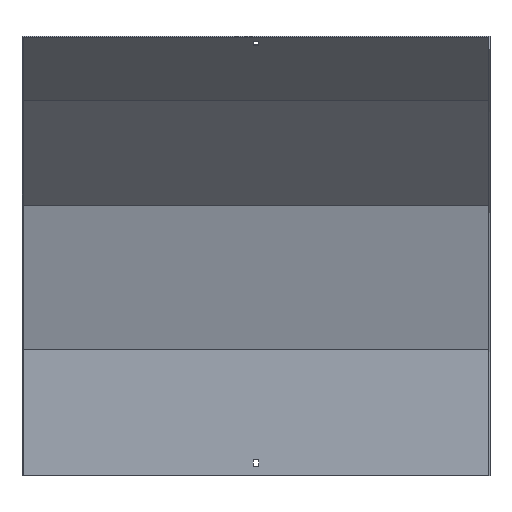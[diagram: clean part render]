
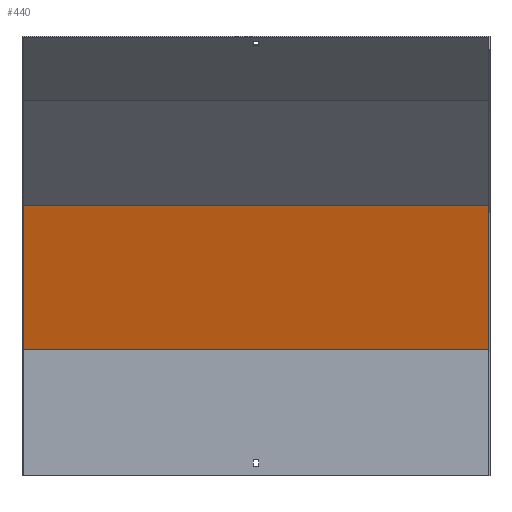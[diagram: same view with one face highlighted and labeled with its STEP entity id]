
A CAD part, front view. The second image highlights one B-rep face of the part: STEP entity #440.
In plain terms, the highlighted planar face has unit normal (0, -0.966, -0.259).
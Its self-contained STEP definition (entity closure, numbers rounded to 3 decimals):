
#18 = DIRECTION ( 'NONE',  ( -1., 0., 0. ) ) ;
#21 = VERTEX_POINT ( 'NONE', #571 ) ;
#41 = DIRECTION ( 'NONE',  ( 0., -0.259, 0.966 ) ) ;
#112 = EDGE_CURVE ( 'NONE', #553, #21, #251, .T. ) ;
#138 = VERTEX_POINT ( 'NONE', #554 ) ;
#208 = LINE ( 'NONE', #802, #476 ) ;
#251 = LINE ( 'NONE', #570, #275 ) ;
#275 = VECTOR ( 'NONE', #18, 1000. ) ;
#301 = CARTESIAN_POINT ( 'NONE',  ( 300., -31.295, 348.273 ) ) ;
#313 = EDGE_CURVE ( 'NONE', #568, #553, #208, .T. ) ;
#373 = CARTESIAN_POINT ( 'NONE',  ( 300., 18.5, 162.436 ) ) ;
#392 = ORIENTED_EDGE ( 'NONE', *, *, #577, .F. ) ;
#414 = LINE ( 'NONE', #722, #572 ) ;
#440 = ADVANCED_FACE ( 'NONE', ( #531 ), #613, .T. ) ;
#455 = ORIENTED_EDGE ( 'NONE', *, *, #313, .T. ) ;
#476 = VECTOR ( 'NONE', #41, 1000. ) ;
#483 = ORIENTED_EDGE ( 'NONE', *, *, #112, .T. ) ;
#500 = DIRECTION ( 'NONE',  ( -1., 0., 0. ) ) ;
#531 = FACE_OUTER_BOUND ( 'NONE', #864, .T. ) ;
#553 = VERTEX_POINT ( 'NONE', #301 ) ;
#554 = CARTESIAN_POINT ( 'NONE',  ( -300., 18.5, 162.436 ) ) ;
#568 = VERTEX_POINT ( 'NONE', #373 ) ;
#570 = CARTESIAN_POINT ( 'NONE',  ( 301.5, -31.295, 348.273 ) ) ;
#571 = CARTESIAN_POINT ( 'NONE',  ( -300., -31.295, 348.273 ) ) ;
#572 = VECTOR ( 'NONE', #500, 1000. ) ;
#577 = EDGE_CURVE ( 'NONE', #138, #21, #605, .T. ) ;
#603 = DIRECTION ( 'NONE',  ( 0., 0.259, -0.966 ) ) ;
#605 = LINE ( 'NONE', #679, #889 ) ;
#613 = PLANE ( 'NONE',  #689 ) ;
#679 = CARTESIAN_POINT ( 'NONE',  ( -300., 57.87, 15.506 ) ) ;
#689 = AXIS2_PLACEMENT_3D ( 'NONE', #905, #835, #603 ) ;
#695 = ORIENTED_EDGE ( 'NONE', *, *, #877, .F. ) ;
#722 = CARTESIAN_POINT ( 'NONE',  ( 301.5, 18.5, 162.436 ) ) ;
#802 = CARTESIAN_POINT ( 'NONE',  ( 300., 57.87, 15.506 ) ) ;
#835 = DIRECTION ( 'NONE',  ( 0., -0.966, -0.259 ) ) ;
#864 = EDGE_LOOP ( 'NONE', ( #392, #695, #455, #483 ) ) ;
#877 = EDGE_CURVE ( 'NONE', #568, #138, #414, .T. ) ;
#889 = VECTOR ( 'NONE', #982, 1000. ) ;
#905 = CARTESIAN_POINT ( 'NONE',  ( 301.5, 17.87, 164.788 ) ) ;
#982 = DIRECTION ( 'NONE',  ( 0., -0.259, 0.966 ) ) ;
